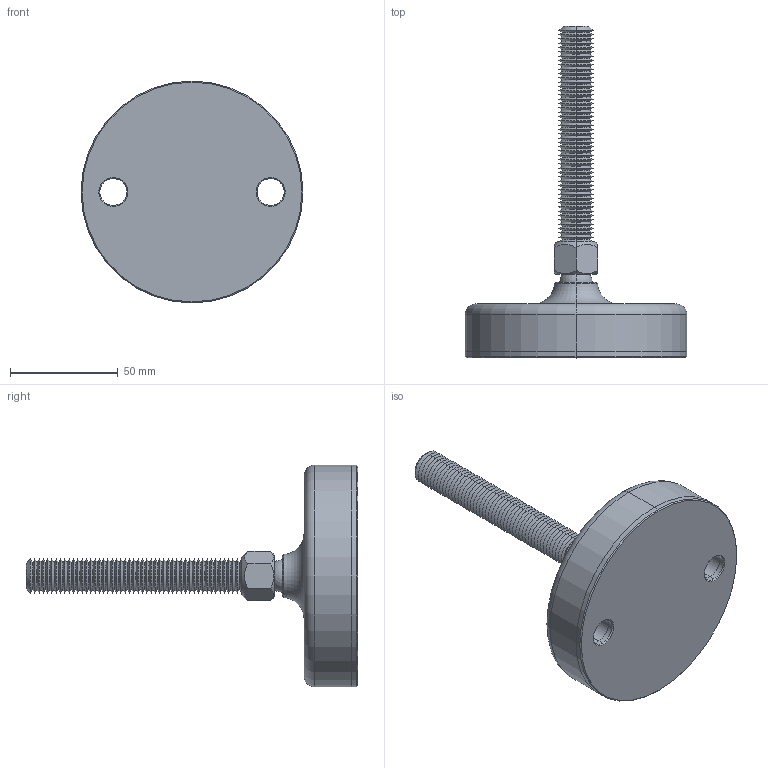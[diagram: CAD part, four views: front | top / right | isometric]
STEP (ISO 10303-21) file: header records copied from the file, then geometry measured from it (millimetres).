
FILE_DESCRIPTION (( 'STEP AP203' ), '1' );
FILE_NAME ('34724.W1609.step', '2019-11-28T22:13:41', ( '' ), ( '' ), 'SwSTEP 2.0', 'SolidWorks 2017', '' );
FILE_SCHEMA (( 'CONFIG_CONTROL_DESIGN' ));
Length unit declared in the file: millimetre
Products named in the file (4): Part3_34724.W1609; Part1_34724.W1609; 34724.W1609; Part2_34724.W1609
Assembly tree (3 placements, depth 2):
  34724.W1609
    Part1_34724.W1609
    Part2_34724.W1609
    Part3_34724.W1609
Bounding box: 103 x 154 x 103 mm (x, y, z)
Volume: 227003.6 mm3; surface area: 52966.6 mm2
Topology: 3 solids, 3 shells, 248 faces, 511 edges, 269 vertices
Faces by surface type: cone 214, plane 14, cylinder 12, sphere 4, torus 4
Entity records: 6866 total; most frequent: DIRECTION 1256, CARTESIAN_POINT 1172, ORIENTED_EDGE 1004, AXIS2_PLACEMENT_3D 512, EDGE_CURVE 502, VERTEX_POINT 264, EDGE_LOOP 260, CIRCLE 258
